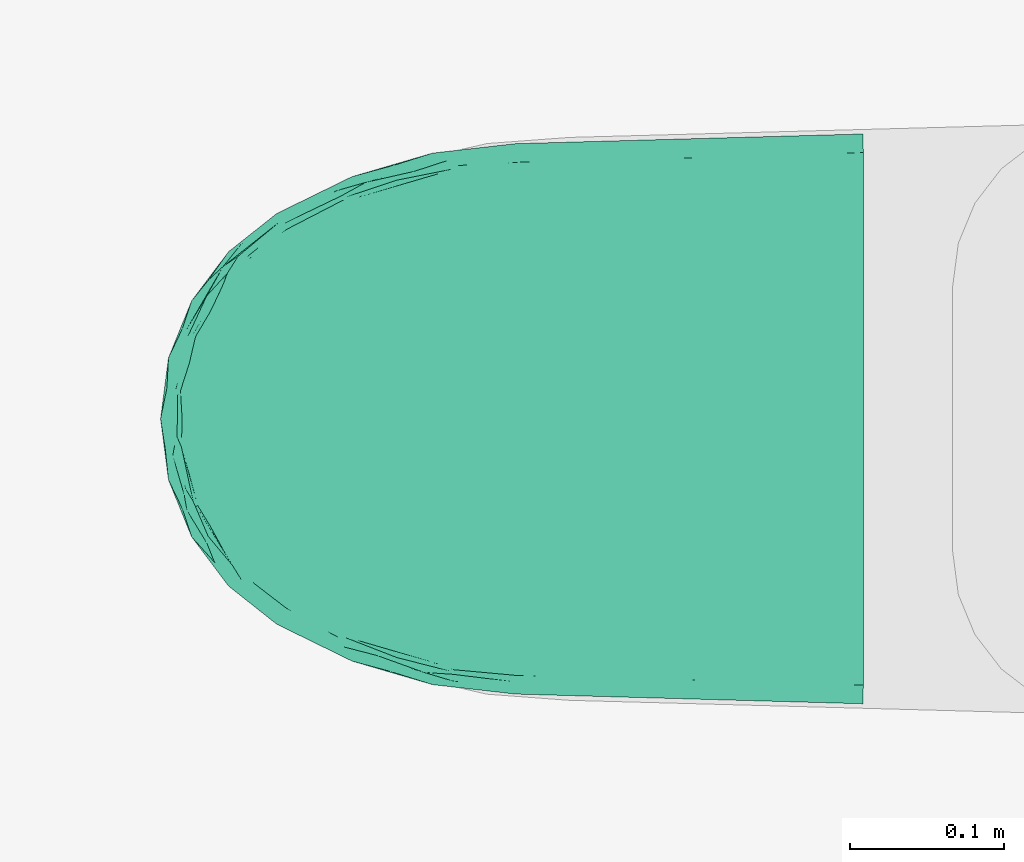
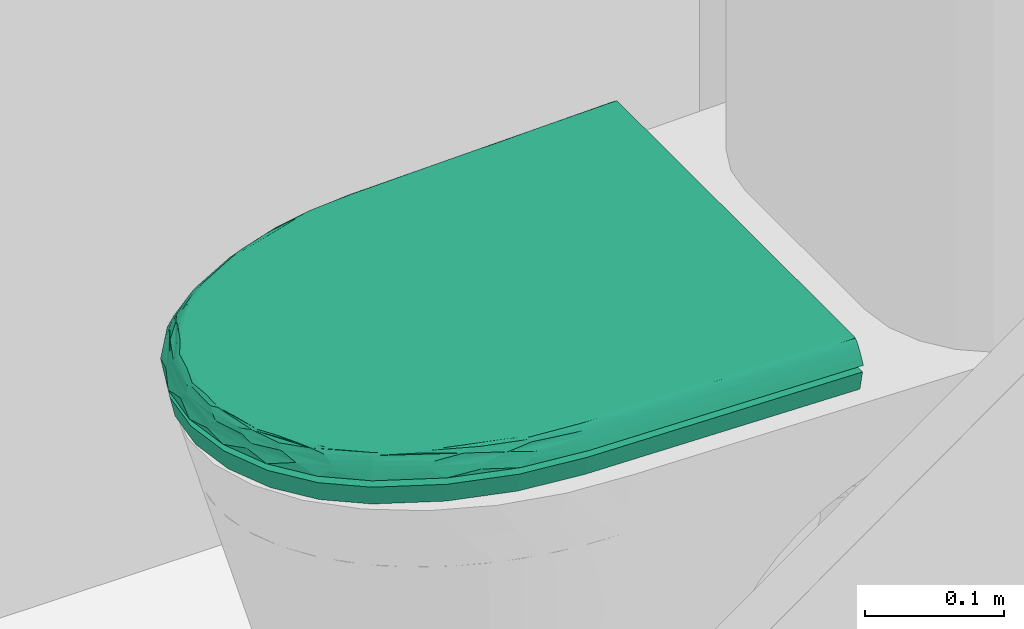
# One storey, part 67 of 75: 1 flow terminal.
"""IFC2X3 building model written with IfcOpenShell, lengths in metres."""

from ifc_helpers import new_model, entity, si_unit, converted_unit, derived_unit, direction, frame, origin, place, context, subcontext, project, spatial, faceted_brep, source, transform, mapped, material, type_object, type_shapes, element, save


model = new_model("IFC2X3")

# Units and contexts
model_context = context("Model", 3, precision=1e-05, world=origin(), true_north=direction((6.12303176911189e-17, 1.0)))
body_context = subcontext(model_context, "Body", "Model", "MODEL_VIEW")
ifc_project = project(units=[si_unit("LENGTHUNIT", "METRE"), si_unit("AREAUNIT", "SQUARE_METRE"), si_unit("VOLUMEUNIT", "CUBIC_METRE"), converted_unit("PLANEANGLEUNIT", "DEGREE", entity("IfcRatioMeasure", 0.0174532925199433), si_unit("PLANEANGLEUNIT", "RADIAN"), dimensions=[0, 0, 0, 0, 0, 0, 0]), si_unit("MASSUNIT", "GRAM", prefix="KILO"), derived_unit("MASSDENSITYUNIT", [(si_unit("MASSUNIT", "GRAM", prefix="KILO"), 1), (si_unit("LENGTHUNIT", "METRE"), -3)]), derived_unit("MOMENTOFINERTIAUNIT", [(si_unit("LENGTHUNIT", "METRE"), 4)]), si_unit("TIMEUNIT", "SECOND"), si_unit("FREQUENCYUNIT", "HERTZ"), si_unit("THERMODYNAMICTEMPERATUREUNIT", "DEGREE_CELSIUS"), derived_unit("THERMALTRANSMITTANCEUNIT", [(si_unit("MASSUNIT", "GRAM", prefix="KILO"), 1), (si_unit("THERMODYNAMICTEMPERATUREUNIT", "KELVIN"), -1), (si_unit("TIMEUNIT", "SECOND"), -3)]), derived_unit("VOLUMETRICFLOWRATEUNIT", [(si_unit("LENGTHUNIT", "METRE"), 3), (si_unit("TIMEUNIT", "SECOND"), -1)]), si_unit("ELECTRICCURRENTUNIT", "AMPERE"), si_unit("ELECTRICVOLTAGEUNIT", "VOLT"), si_unit("POWERUNIT", "WATT"), si_unit("FORCEUNIT", "NEWTON", prefix="KILO"), si_unit("ILLUMINANCEUNIT", "LUX"), si_unit("LUMINOUSFLUXUNIT", "LUMEN"), si_unit("LUMINOUSINTENSITYUNIT", "CANDELA"), derived_unit("USERDEFINED", [(si_unit("MASSUNIT", "GRAM", prefix="KILO"), -1), (si_unit("LENGTHUNIT", "METRE"), -2), (si_unit("TIMEUNIT", "SECOND"), 3), (si_unit("LUMINOUSFLUXUNIT", "LUMEN"), 1)]), derived_unit("LINEARVELOCITYUNIT", [(si_unit("LENGTHUNIT", "METRE"), 1), (si_unit("TIMEUNIT", "SECOND"), -1)]), si_unit("PRESSUREUNIT", "PASCAL"), derived_unit("USERDEFINED", [(si_unit("LENGTHUNIT", "METRE"), -2), (si_unit("MASSUNIT", "GRAM", prefix="KILO"), 1), (si_unit("TIMEUNIT", "SECOND"), -2)]), derived_unit("LINEARFORCEUNIT", [(si_unit("MASSUNIT", "GRAM", prefix="KILO"), 1), (si_unit("LENGTHUNIT", "METRE"), 1), (si_unit("TIMEUNIT", "SECOND"), -2), (si_unit("LENGTHUNIT", "METRE"), -1)]), derived_unit("PLANARFORCEUNIT", [(si_unit("MASSUNIT", "GRAM", prefix="KILO"), 1), (si_unit("LENGTHUNIT", "METRE"), 1), (si_unit("TIMEUNIT", "SECOND"), -2), (si_unit("LENGTHUNIT", "METRE"), -2)])], contexts=[model_context])

# Site, building, storey
site_placement = place(None, origin())
site = spatial("IfcSite", under=ifc_project, at=site_placement, Name="Superficie", CompositionType="ELEMENT")
building_placement = place(site_placement, origin())
building = spatial("IfcBuilding", under=site, at=building_placement, Name="Telegestiones", CompositionType="ELEMENT")
storey_placement = place(building_placement, origin())
storey = spatial("IfcBuildingStorey", under=building, at=storey_placement, Name="Nivel 0_NPT", CompositionType="ELEMENT", Elevation=0.0)

# Flow terminal
ifc_material = material(Name="Plastico - Ferrum - Urea - Blanco")
distribution_element_type = type_object("IfcDistributionElementType", Name="Inodoro-Ferrum-Marina-Tapa_y_Asiento:Tapa de Inodoro", material=ifc_material)
shared_shape = source(origin(), body_context, "Body", "Brep", [
    faceted_brep([(0.001595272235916, 0.456635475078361, 0.024059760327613), (0.00438804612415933, 0.456713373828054, 0.0292542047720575), (0.0069939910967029, 0.45678606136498, 0.0335042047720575), (0.00941310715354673, 0.456853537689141, 0.036809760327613), (0.0116453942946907, 0.456915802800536, 0.0391708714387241), (0.0136908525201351, 0.456972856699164, 0.0405875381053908), (0.0155494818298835, 0.457024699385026, 0.041059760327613), (0.0155494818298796, 0.457024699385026, 0.0240597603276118), (0.356866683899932, 0.457024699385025, 0.024059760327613), (0.356866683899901, 0.457024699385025, 0.041059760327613), (0.358725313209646, 0.456972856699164, 0.0405875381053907), (0.36077077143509, 0.456915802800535, 0.0391708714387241), (0.363003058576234, 0.456853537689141, 0.036809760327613), (0.365422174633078, 0.45678606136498, 0.0335042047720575), (0.368028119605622, 0.456713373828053, 0.0292542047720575), (0.370820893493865, 0.456635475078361, 0.024059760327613), (0.0165302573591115, 0.421862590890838, 0.041059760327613), (0.0178998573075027, 0.372760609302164, 0.041059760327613), (0.0198614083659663, 0.302436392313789, 0.041059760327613), (0.0218229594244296, 0.23211217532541, 0.0410597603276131), (0.027695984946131, 0.180536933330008, 0.0410597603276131), (0.0422596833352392, 0.130713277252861, 0.0410597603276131), (0.0650892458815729, 0.0840945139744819, 0.041059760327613), (0.0876065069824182, 0.055650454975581, 0.041059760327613), (0.116624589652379, 0.0338779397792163, 0.041059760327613), (0.150230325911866, 0.0202124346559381, 0.0410597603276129), (0.186208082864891, 0.0155549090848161, 0.0410597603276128), (0.222185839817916, 0.0202124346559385, 0.0410597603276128), (0.255791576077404, 0.0338779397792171, 0.0410597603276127), (0.284809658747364, 0.0556504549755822, 0.0410597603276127), (0.307326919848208, 0.0840945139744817, 0.0410597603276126), (0.330156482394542, 0.130713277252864, 0.0410597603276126), (0.34472018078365, 0.180536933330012, 0.0410597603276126), (0.350593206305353, 0.232112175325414, 0.0410597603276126), (0.351573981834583, 0.267274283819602, 0.041059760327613), (0.352943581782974, 0.316376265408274, 0.041059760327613), (0.354905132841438, 0.38670048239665, 0.041059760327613), (0.359621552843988, 0.29306195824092, 0.0352750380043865), (0.361625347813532, 0.274753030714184, 0.0314972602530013), (0.36307674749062, 0.326787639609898, 0.0314972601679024), (0.365222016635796, 0.403698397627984, 0.0314972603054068), (0.362298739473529, 0.389042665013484, 0.0352750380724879), (0.357834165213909, 0.389167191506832, 0.0399972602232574), (0.356913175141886, 0.410045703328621, 0.0408017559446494), (0.357025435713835, 0.344476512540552, 0.0396759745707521), (0.360402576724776, 0.404507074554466, 0.0381083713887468), (0.353536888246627, 0.291789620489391, 0.0408295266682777), (0.355341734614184, 0.299810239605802, 0.0399972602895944), (0.357035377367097, 0.283788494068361, 0.0381083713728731), (0.352451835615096, 0.232060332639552, 0.0405875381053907), (0.356729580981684, 0.231941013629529, 0.0368097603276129), (0.35449729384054, 0.232003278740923, 0.039170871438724), (0.365723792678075, 0.350304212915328, 0.028075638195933), (0.366508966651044, 0.302047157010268, 0.024059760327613), (0.368470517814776, 0.372371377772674, 0.024059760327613), (0.355332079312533, 0.348898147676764, 0.0407542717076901), (0.364180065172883, 0.300719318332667, 0.0283642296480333), (0.359148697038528, 0.231873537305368, 0.0335042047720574), (0.361754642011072, 0.231800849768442, 0.0292542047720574), (0.367244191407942, 0.398171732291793, 0.0277403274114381), (0.36964570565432, 0.414503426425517, 0.024059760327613), (0.360553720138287, 0.34106364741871, 0.0358205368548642), (0.358726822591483, 0.344429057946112, 0.0381083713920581), (0.364547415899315, 0.231722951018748, 0.024059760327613), (0.358404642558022, 0.177778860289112, 0.024059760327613), (0.34317203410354, 0.125666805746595, 0.024059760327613), (0.31929391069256, 0.076906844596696, 0.0240597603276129), (0.294551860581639, 0.0456524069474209, 0.0240597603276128), (0.262666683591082, 0.0217286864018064, 0.0240597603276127), (0.225740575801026, 0.00671297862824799, 0.0240597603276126), (0.18620808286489, 0.00159527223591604, 0.0240597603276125), (0.146675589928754, 0.00671297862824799, 0.0240597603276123), (0.109749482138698, 0.0217286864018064, 0.0240597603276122), (0.077864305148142, 0.0456524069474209, 0.0240597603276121), (0.0531222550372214, 0.0769068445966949, 0.024059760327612), (0.029244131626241, 0.125666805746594, 0.0240597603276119), (0.0140115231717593, 0.17777886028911, 0.0240597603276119), (0.00786874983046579, 0.231722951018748, 0.0240597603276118), (0.00669356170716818, 0.273855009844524, 0.024059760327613), (0.00551837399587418, 0.315987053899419, 0.024059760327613), (0.00355682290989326, 0.38631127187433, 0.024059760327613), (0.348766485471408, 0.19184404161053, 0.0405359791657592), (0.349863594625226, 0.189923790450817, 0.0396286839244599), (0.310675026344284, 0.0820835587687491, 0.039170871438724), (0.312589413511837, 0.0809337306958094, 0.0368097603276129), (0.339580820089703, 0.141992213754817, 0.0380822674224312), (0.316898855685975, 0.0783453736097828, 0.0292542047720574), (0.334448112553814, 0.116810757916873, 0.0324641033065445), (0.314664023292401, 0.0796876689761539, 0.0335042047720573), (0.351727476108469, 0.191045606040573, 0.0380922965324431), (0.350466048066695, 0.172235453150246, 0.035239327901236), (0.357674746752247, 0.188271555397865, 0.0289584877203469), (0.348361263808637, 0.152432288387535, 0.0307862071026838), (0.336324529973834, 0.116342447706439, 0.0292921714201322), (0.3340712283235, 0.120766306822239, 0.0352481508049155), (0.349702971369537, 0.149947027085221, 0.0272890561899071), (0.328370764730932, 0.122507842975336, 0.0407801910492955), (0.308920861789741, 0.0831371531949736, 0.0405875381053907), (0.340839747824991, 0.154630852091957, 0.0402739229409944), (0.326302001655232, 0.114016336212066, 0.039960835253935), (0.356097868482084, 0.191008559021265, 0.0323074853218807), (0.206137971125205, 0.00469480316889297, 0.0274750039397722), (0.0918736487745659, 0.0448195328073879, 0.0379312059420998), (0.0617411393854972, 0.0820835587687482, 0.0391708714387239), (0.0598267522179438, 0.0809337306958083, 0.0368097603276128), (0.271117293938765, 0.042209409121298, 0.0407977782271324), (0.242566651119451, 0.0257569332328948, 0.0407855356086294), (0.239485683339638, 0.0226589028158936, 0.0398351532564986), (0.281086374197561, 0.0481515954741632, 0.0399058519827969), (0.197949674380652, 0.0122613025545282, 0.0392893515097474), (0.20434819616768, 0.0150990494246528, 0.0407002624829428), (0.168067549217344, 0.0144776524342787, 0.0403940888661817), (0.170441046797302, 0.00822595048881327, 0.034090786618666), (0.166278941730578, 0.00570428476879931, 0.0292662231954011), (0.206136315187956, 0.00691960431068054, 0.0313090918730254), (0.127777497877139, 0.0157377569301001, 0.0287773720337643), (0.292755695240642, 0.0621048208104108, 0.0408263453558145), (0.0960686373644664, 0.043351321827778, 0.0393951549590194), (0.132914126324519, 0.0216644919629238, 0.0390716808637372), (0.101228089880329, 0.0411914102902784, 0.0403940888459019), (0.290126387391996, 0.0537118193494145, 0.0379796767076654), (0.279094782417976, 0.0365256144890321, 0.0300373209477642), (0.298002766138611, 0.0556782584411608, 0.0320683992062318), (0.294844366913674, 0.0552482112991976, 0.0351018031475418), (0.299417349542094, 0.0541811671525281, 0.0285967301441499), (0.127833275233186, 0.0186776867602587, 0.0332865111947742), (0.166466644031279, 0.0116486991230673, 0.037846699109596), (0.170334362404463, 0.0127334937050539, 0.0393546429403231), (0.244637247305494, 0.0158147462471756, 0.0289041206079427), (0.262322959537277, 0.0324450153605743, 0.0385687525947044), (0.0634953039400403, 0.0831371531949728, 0.0405875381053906), (0.0809354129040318, 0.0605511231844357, 0.0407924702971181), (0.0874076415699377, 0.0421879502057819, 0.0311281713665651), (0.0732843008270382, 0.0535465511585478, 0.0282099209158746), (0.0959605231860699, 0.0328608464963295, 0.0276535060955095), (0.0786474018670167, 0.0607623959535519, 0.0399426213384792), (0.132957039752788, 0.024235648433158, 0.0407002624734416), (0.0577521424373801, 0.0796876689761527, 0.0335042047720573), (0.0807690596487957, 0.0519072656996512, 0.0350760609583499), (0.132771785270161, 0.0192933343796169, 0.0366404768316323), (0.235685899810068, 0.0169871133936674, 0.0356307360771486), (0.266675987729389, 0.0315725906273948, 0.0348948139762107), (0.231657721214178, 0.0178496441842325, 0.038162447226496), (0.106545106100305, 0.0314888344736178, 0.035394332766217), (0.0555173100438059, 0.0783453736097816, 0.0292542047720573), (0.245448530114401, 0.0186226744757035, 0.0326873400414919), (0.204351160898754, 0.0105368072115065, 0.0368097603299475), (0.210021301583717, 0.00948524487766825, 0.0343542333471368), (0.0449403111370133, 0.119006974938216, 0.0405359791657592), (0.0429816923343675, 0.120034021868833, 0.0396286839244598), (0.0179188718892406, 0.232003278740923, 0.0391708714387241), (0.0156865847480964, 0.231941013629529, 0.036809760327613), (0.0258300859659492, 0.165957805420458, 0.0380822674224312), (0.0106615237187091, 0.231800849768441, 0.0292542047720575), (0.0165922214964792, 0.189939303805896, 0.0324641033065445), (0.0132674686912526, 0.231873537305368, 0.0335042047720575), (0.0420154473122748, 0.118084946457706, 0.0380922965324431), (0.0329472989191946, 0.134613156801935, 0.035239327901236), (0.0355103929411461, 0.117219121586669, 0.0289584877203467), (0.0240549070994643, 0.152432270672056, 0.0307862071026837), (0.0147589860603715, 0.189323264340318, 0.0292921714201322), (0.0190401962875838, 0.186809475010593, 0.0352481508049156), (0.0215858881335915, 0.153803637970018, 0.0272890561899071), (0.0247811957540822, 0.1884123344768, 0.0407801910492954), (0.019964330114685, 0.232060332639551, 0.0405875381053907), (0.0315764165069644, 0.154630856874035, 0.0402739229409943), (0.0219508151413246, 0.196681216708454, 0.039960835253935), (0.0383131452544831, 0.115762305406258, 0.0323074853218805), (0.00993267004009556, 0.395666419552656, 0.0352750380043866), (0.00691140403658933, 0.413835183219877, 0.0314972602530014), (0.00836280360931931, 0.361800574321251, 0.0314972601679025), (0.0170744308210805, 0.299810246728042, 0.0399972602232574), (0.0191578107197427, 0.279015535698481, 0.0408017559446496), (0.0153907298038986, 0.344476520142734, 0.0396759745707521), (0.0153650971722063, 0.284351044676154, 0.0381083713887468), (0.0159369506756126, 0.397275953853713, 0.0408295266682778), (0.0126098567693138, 0.299685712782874, 0.0352750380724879), (0.0145820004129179, 0.389167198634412, 0.0399972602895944), (0.0119978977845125, 0.40506962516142, 0.0381083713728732), (0.0070307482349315, 0.338173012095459, 0.0280756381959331), (0.0105080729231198, 0.284889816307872, 0.0314972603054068), (0.0173279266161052, 0.340156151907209, 0.0407542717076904), (0.00580808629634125, 0.387766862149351, 0.0283642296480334), (0.00818097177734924, 0.290295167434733, 0.027740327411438), (0.0116776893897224, 0.347687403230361, 0.0358205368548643), (0.0136893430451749, 0.344429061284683, 0.0381083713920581)], [[[0, 1, 2, 3, 4, 5, 6, 7]], [[8, 9, 10, 11, 12, 13, 14, 15]], [[6, 16, 17, 18, 19, 20, 21, 22, 23, 24, 25, 26, 27, 28, 29, 30, 31, 32, 33, 34, 35, 36, 9]], [[6, 9, 8, 7]], [[37, 38, 39]], [[40, 41, 39]], [[42, 10, 43]], [[44, 45, 42]], [[45, 12, 11]], [[34, 46, 35]], [[10, 9, 43]], [[13, 12, 41]], [[47, 48, 44]], [[46, 34, 49]], [[50, 37, 48]], [[49, 51, 47]], [[51, 50, 48]], [[52, 53, 54]], [[14, 13, 40]], [[55, 43, 36]], [[52, 56, 53]], [[11, 10, 42]], [[50, 57, 37]], [[42, 45, 11]], [[38, 57, 58]], [[38, 58, 56]], [[59, 60, 14]], [[46, 47, 55]], [[13, 41, 40]], [[37, 39, 61]], [[41, 45, 62]], [[63, 56, 58]], [[62, 61, 41]], [[54, 59, 52]], [[12, 45, 41]], [[44, 48, 62, 45]], [[51, 48, 47]], [[62, 48, 61]], [[57, 38, 37]], [[39, 38, 56]], [[52, 39, 56]], [[63, 53, 56]], [[52, 40, 39]], [[40, 52, 59]], [[59, 14, 40]], [[34, 33, 49]], [[15, 14, 60]], [[59, 54, 60]], [[35, 46, 55]], [[47, 46, 49]], [[35, 55, 36]], [[44, 42, 55]], [[47, 44, 55]], [[42, 43, 55]], [[36, 43, 9]], [[41, 61, 39]], [[37, 61, 48]], [[8, 15, 60, 54, 53, 63, 64, 65, 66, 67, 68, 69, 70, 71, 72, 73, 74, 75, 76, 77, 78, 79, 80, 0, 7]], [[81, 82, 49]], [[83, 84, 85]], [[32, 81, 33]], [[86, 87, 88]], [[89, 90, 50]], [[89, 82, 85]], [[58, 91, 63]], [[90, 89, 85]], [[92, 87, 93]], [[87, 94, 88]], [[90, 57, 50]], [[95, 91, 92]], [[51, 89, 50]], [[85, 94, 90]], [[32, 31, 96]], [[90, 87, 92]], [[30, 97, 96]], [[33, 81, 49]], [[81, 98, 82]], [[99, 98, 96]], [[91, 100, 92]], [[99, 85, 98]], [[87, 86, 93]], [[94, 87, 90]], [[91, 58, 100]], [[84, 88, 94]], [[66, 65, 93]], [[92, 93, 95]], [[82, 89, 51]], [[85, 84, 94]], [[85, 82, 98]], [[96, 31, 30]], [[32, 98, 81]], [[49, 82, 51]], [[66, 93, 86]], [[95, 93, 65]], [[65, 64, 95]], [[64, 63, 91]], [[64, 91, 95]], [[100, 58, 57]], [[57, 90, 100]], [[90, 92, 100]], [[99, 97, 83]], [[32, 96, 98]], [[97, 99, 96]], [[85, 99, 83]], [[69, 101, 70]], [[102, 103, 104]], [[105, 29, 28]], [[105, 106, 107]], [[105, 107, 108]], [[109, 110, 111]], [[111, 110, 26]], [[112, 113, 114]], [[71, 115, 72]], [[116, 30, 29]], [[117, 118, 119]], [[108, 83, 97]], [[84, 83, 120]], [[67, 121, 68]], [[122, 88, 123]], [[86, 124, 66]], [[26, 110, 27]], [[120, 83, 108]], [[113, 112, 125]], [[88, 122, 86]], [[126, 109, 127]], [[84, 123, 88]], [[128, 69, 68]], [[68, 121, 128]], [[111, 26, 25]], [[106, 110, 107]], [[70, 113, 71]], [[122, 124, 86]], [[108, 129, 120]], [[109, 107, 110]], [[22, 130, 131]], [[132, 133, 134]], [[117, 119, 135]], [[119, 136, 24]], [[24, 23, 119]], [[118, 111, 136]], [[105, 116, 29]], [[137, 138, 104]], [[115, 132, 134]], [[112, 126, 139]], [[138, 137, 132]], [[103, 135, 130]], [[115, 71, 113]], [[101, 113, 70]], [[74, 73, 133]], [[140, 141, 129]], [[142, 140, 129]], [[143, 125, 139]], [[144, 133, 137]], [[138, 143, 102]], [[133, 132, 137]], [[25, 24, 136]], [[141, 140, 145]], [[130, 135, 131]], [[127, 118, 126]], [[109, 146, 142]], [[118, 136, 119]], [[111, 25, 136]], [[143, 132, 125]], [[102, 104, 138]], [[129, 108, 107]], [[123, 120, 141]], [[145, 121, 141]], [[101, 128, 114]], [[147, 112, 114]], [[126, 146, 109]], [[113, 125, 115]], [[132, 115, 125]], [[139, 126, 118]], [[112, 146, 126]], [[120, 123, 84]], [[122, 141, 121]], [[102, 139, 118]], [[112, 139, 125]], [[105, 28, 106]], [[116, 108, 97]], [[28, 27, 106]], [[110, 106, 27]], [[142, 129, 107]], [[141, 120, 129]], [[109, 142, 107]], [[142, 146, 140]], [[146, 147, 140]], [[145, 114, 128]], [[145, 140, 147]], [[121, 145, 128]], [[108, 116, 105]], [[30, 116, 97]], [[102, 135, 103]], [[131, 119, 23]], [[119, 131, 135]], [[22, 131, 23]], [[141, 122, 123]], [[122, 121, 124]], [[121, 67, 124]], [[66, 124, 67]], [[102, 143, 139]], [[132, 143, 138]], [[112, 147, 146]], [[145, 147, 114]], [[135, 102, 117]], [[118, 117, 102]], [[128, 101, 69]], [[113, 101, 114]], [[74, 133, 144]], [[134, 73, 72]], [[73, 134, 133]], [[115, 134, 72]], [[109, 111, 127]], [[118, 127, 111]], [[148, 149, 130]], [[150, 151, 152]], [[21, 148, 22]], [[153, 154, 155]], [[156, 157, 104]], [[156, 149, 152]], [[144, 158, 74]], [[157, 156, 152]], [[159, 154, 160]], [[154, 161, 155]], [[157, 137, 104]], [[162, 158, 159]], [[103, 156, 104]], [[152, 161, 157]], [[21, 20, 163]], [[157, 154, 159]], [[19, 164, 163]], [[22, 148, 130]], [[148, 165, 149]], [[166, 165, 163]], [[158, 167, 159]], [[166, 152, 165]], [[154, 153, 160]], [[161, 154, 157]], [[158, 144, 167]], [[151, 155, 161]], [[77, 76, 160]], [[159, 160, 162]], [[149, 156, 103]], [[152, 151, 161]], [[152, 149, 165]], [[163, 20, 19]], [[21, 165, 148]], [[130, 149, 103]], [[77, 160, 153]], [[162, 160, 76]], [[76, 75, 162]], [[75, 74, 158]], [[75, 158, 162]], [[167, 144, 137]], [[137, 157, 167]], [[157, 159, 167]], [[166, 164, 150]], [[21, 163, 165]], [[164, 166, 163]], [[152, 166, 150]], [[168, 169, 170]], [[171, 164, 172]], [[173, 174, 171]], [[174, 151, 150]], [[16, 175, 17]], [[164, 19, 172]], [[155, 151, 176]], [[177, 178, 173]], [[175, 16, 5]], [[3, 168, 178]], [[5, 4, 177]], [[4, 3, 178]], [[179, 80, 79]], [[153, 155, 180]], [[181, 172, 18]], [[179, 182, 80]], [[150, 164, 171]], [[3, 2, 168]], [[171, 174, 150]], [[169, 2, 1]], [[169, 1, 182]], [[183, 78, 153]], [[175, 177, 181]], [[155, 176, 180]], [[168, 170, 184]], [[176, 174, 185]], [[0, 182, 1]], [[185, 184, 176]], [[79, 183, 179]], [[180, 176, 170]], [[151, 174, 176]], [[173, 178, 185, 174]], [[4, 178, 177]], [[185, 178, 184]], [[2, 169, 168]], [[170, 169, 182]], [[179, 170, 182]], [[0, 80, 182]], [[179, 180, 170]], [[180, 179, 183]], [[183, 153, 180]], [[16, 6, 5]], [[77, 153, 78]], [[183, 79, 78]], [[17, 175, 181]], [[177, 175, 5]], [[17, 181, 18]], [[173, 171, 181]], [[177, 173, 181]], [[171, 172, 181]], [[18, 172, 19]], [[176, 184, 170]], [[168, 184, 178]]]),
    faceted_brep([(0.356866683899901, 0.457024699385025, 0.017550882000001), (0.369571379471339, 0.456670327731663, 0.0175508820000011), (0.365620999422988, 0.456780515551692, 0.0), (0.356866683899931, 0.457024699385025, 0.0), (0.0155494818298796, 0.457024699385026, 0.0175508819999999), (0.00284478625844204, 0.456670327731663, 0.0175508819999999), (0.00911826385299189, 0.231757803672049, 0.0175508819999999), (0.0152368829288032, 0.178025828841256, 0.0175508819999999), (0.0304095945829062, 0.126118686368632, 0.017550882), (0.0541938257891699, 0.0775504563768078, 0.0175508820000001), (0.0787366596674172, 0.0465476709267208, 0.0175508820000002), (0.110365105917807, 0.0228165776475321, 0.0175508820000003), (0.146993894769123, 0.00792177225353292, 0.0175508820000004), (0.18620808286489, 0.00284527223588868, 0.0175508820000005), (0.225422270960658, 0.00792177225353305, 0.0175508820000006), (0.262051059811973, 0.0228165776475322, 0.0175508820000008), (0.293679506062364, 0.0465476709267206, 0.0175508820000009), (0.31822233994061, 0.0775504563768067, 0.017550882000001), (0.342006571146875, 0.126118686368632, 0.017550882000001), (0.357179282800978, 0.178025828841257, 0.0175508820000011), (0.363297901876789, 0.231757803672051, 0.0175508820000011), (0.359347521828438, 0.231867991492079, 0.0), (0.353305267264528, 0.178806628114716, 0.0), (0.338321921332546, 0.127547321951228, 0.0), (0.314834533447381, 0.0795852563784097, 0.0), (0.290921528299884, 0.0493780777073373, 0.0), (0.260104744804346, 0.0262559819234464, 0.0), (0.224415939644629, 0.0117434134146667, 0.0), (0.18620808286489, 0.00679718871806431, 0.0), (0.148000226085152, 0.0117434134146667, 0.0), (0.112311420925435, 0.0262559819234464, 0.0), (0.0814946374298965, 0.0493780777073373, 0.0), (0.0575816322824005, 0.0795852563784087, 0.0), (0.0340942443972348, 0.127547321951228, 0.0), (0.0191108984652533, 0.178806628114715, 0.0), (0.0130686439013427, 0.23186799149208, 0.0), (0.00679516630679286, 0.456780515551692, 0.0), (0.0155494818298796, 0.457024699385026, 0.0)], [[[0, 1, 2, 3]], [[4, 5, 6, 7, 8, 9, 10, 11, 12, 13, 14, 15, 16, 17, 18, 19, 20, 1, 0]], [[2, 1, 20, 21]], [[3, 2, 21, 22, 23, 24, 25, 26, 27, 28, 29, 30, 31, 32, 33, 34, 35, 36, 37]], [[20, 19, 22, 21]], [[19, 18, 23, 22]], [[18, 17, 24, 23]], [[24, 17, 16, 25]], [[16, 15, 26, 25]], [[14, 27, 26, 15]], [[27, 14, 13, 28]], [[12, 11, 30, 29]], [[11, 10, 31, 30]], [[32, 31, 10, 9]], [[28, 13, 12, 29]], [[9, 8, 33, 32]], [[8, 7, 34, 33]], [[7, 6, 35, 34]], [[37, 36, 5, 4]], [[35, 6, 5, 36]], [[3, 37, 4, 0]]]),
])
type_shapes(distribution_element_type, [shared_shape])
flow_terminal_placement = place(storey_placement, frame((5.16842239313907, 8.35831531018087, 0.444820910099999), z_axis=(0.0, 0.0, 1.0), x_axis=(0.0, -1.0, 0.0)))
element("IfcFlowTerminal", 1, at=flow_terminal_placement, inside=storey, type_object=distribution_element_type, material=ifc_material, Name="Inodoro-Ferrum-Marina-Tapa_y_Asiento:Tapa de Inodoro", ObjectType="Inodoro-Ferrum-Marina-Tapa_y_Asiento:Tapa de Inodoro", context=body_context, shape_type="MappedRepresentation", body=[
    mapped(shared_shape, transform((0.0, 0.0, 0.0), scale=1.0)),
])

save(model, "model.ifc")
